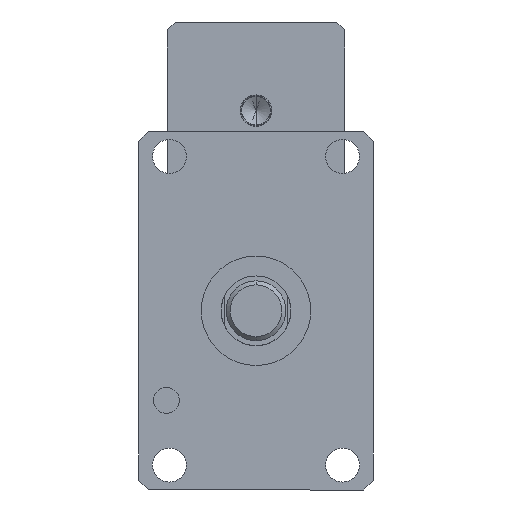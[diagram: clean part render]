
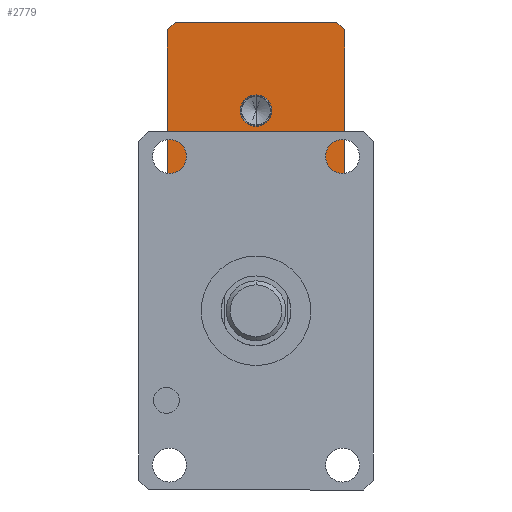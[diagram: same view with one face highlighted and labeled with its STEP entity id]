
A CAD part, front view. The second image highlights one B-rep face of the part: STEP entity #2779.
In plain terms, the highlighted planar face has unit normal (0, -1, 0).
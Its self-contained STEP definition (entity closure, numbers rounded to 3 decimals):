
#2 = EDGE_CURVE ( 'NONE', #11364, #4867, #7471, .T. ) ;
#91 = EDGE_CURVE ( 'NONE', #9857, #264, #6841, .T. ) ;
#190 = EDGE_CURVE ( 'NONE', #264, #6499, #11752, .T. ) ;
#264 = VERTEX_POINT ( 'NONE', #6735 ) ;
#344 = EDGE_CURVE ( 'NONE', #6499, #7628, #9290, .T. ) ;
#390 = ORIENTED_EDGE ( 'NONE', *, *, #810, .F. ) ;
#405 = CARTESIAN_POINT ( 'NONE',  ( 44.5, 260., 145. ) ) ;
#474 = CARTESIAN_POINT ( 'NONE',  ( 44.5, 260., 145. ) ) ;
#579 = EDGE_CURVE ( 'NONE', #7226, #7628, #7458, .T. ) ;
#633 = CARTESIAN_POINT ( 'NONE',  ( 0., 260., 100.5 ) ) ;
#667 = EDGE_CURVE ( 'NONE', #7226, #4001, #6833, .T. ) ;
#676 = ORIENTED_EDGE ( 'NONE', *, *, #667, .T. ) ;
#810 = EDGE_CURVE ( 'NONE', #8572, #4001, #8492, .T. ) ;
#905 = EDGE_CURVE ( 'NONE', #8572, #2952, #2736, .T. ) ;
#1140 = ORIENTED_EDGE ( 'NONE', *, *, #2, .F. ) ;
#1212 = ORIENTED_EDGE ( 'NONE', *, *, #579, .F. ) ;
#1451 = DIRECTION ( 'NONE',  ( 1., 0., 0. ) ) ;
#1620 = DIRECTION ( 'NONE',  ( 0., 0., -1. ) ) ;
#1722 = VECTOR ( 'NONE', #11508, 1000. ) ;
#1839 = LINE ( 'NONE', #10844, #10931 ) ;
#1841 = DIRECTION ( 'NONE',  ( 0., -1., 0. ) ) ;
#2141 = VECTOR ( 'NONE', #5257, 1000. ) ;
#2326 = DIRECTION ( 'NONE',  ( 0., 0., -1. ) ) ;
#2331 = VECTOR ( 'NONE', #2326, 1000. ) ;
#2716 = DIRECTION ( 'NONE',  ( 0., 0., 1. ) ) ;
#2736 = LINE ( 'NONE', #12070, #2141 ) ;
#2779 = ADVANCED_FACE ( 'NONE', ( #12140, #6610 ), #7543, .F. ) ;
#2900 = CARTESIAN_POINT ( 'NONE',  ( -44.5, 260., 141. ) ) ;
#2952 = VERTEX_POINT ( 'NONE', #2900 ) ;
#3231 = CARTESIAN_POINT ( 'NONE',  ( 40.5, 260., 56. ) ) ;
#3691 = ORIENTED_EDGE ( 'NONE', *, *, #6955, .F. ) ;
#4001 = VERTEX_POINT ( 'NONE', #7830 ) ;
#4114 = CARTESIAN_POINT ( 'NONE',  ( 44.5, 260., 60. ) ) ;
#4272 = VECTOR ( 'NONE', #6290, 1000. ) ;
#4815 = CARTESIAN_POINT ( 'NONE',  ( -44.5, 260., 60. ) ) ;
#4867 = VERTEX_POINT ( 'NONE', #11756 ) ;
#5218 = AXIS2_PLACEMENT_3D ( 'NONE', #12408, #8508, #2716 ) ;
#5257 = DIRECTION ( 'NONE',  ( -0.707, 0., -0.707 ) ) ;
#5283 = AXIS2_PLACEMENT_3D ( 'NONE', #7627, #1841, #8594 ) ;
#5754 = ORIENTED_EDGE ( 'NONE', *, *, #344, .T. ) ;
#5899 = CIRCLE ( 'NONE', #12182, 7.903 ) ;
#5903 = CARTESIAN_POINT ( 'NONE',  ( 44.5, 260., 141. ) ) ;
#6290 = DIRECTION ( 'NONE',  ( -0.707, 0., 0.707 ) ) ;
#6499 = VERTEX_POINT ( 'NONE', #3231 ) ;
#6610 = FACE_OUTER_BOUND ( 'NONE', #10599, .T. ) ;
#6614 = CARTESIAN_POINT ( 'NONE',  ( 0., 260., 92.597 ) ) ;
#6676 = VECTOR ( 'NONE', #6990, 1000. ) ;
#6735 = CARTESIAN_POINT ( 'NONE',  ( -40.5, 260., 56. ) ) ;
#6833 = LINE ( 'NONE', #9253, #4272 ) ;
#6841 = LINE ( 'NONE', #4815, #1722 ) ;
#6955 = EDGE_CURVE ( 'NONE', #4867, #11364, #5899, .T. ) ;
#6990 = DIRECTION ( 'NONE',  ( 0.707, 0., 0.707 ) ) ;
#7226 = VERTEX_POINT ( 'NONE', #5903 ) ;
#7283 = EDGE_CURVE ( 'NONE', #2952, #9857, #1839, .T. ) ;
#7409 = DIRECTION ( 'NONE',  ( 0., -1., 0. ) ) ;
#7458 = LINE ( 'NONE', #405, #2331 ) ;
#7471 = CIRCLE ( 'NONE', #5283, 7.903 ) ;
#7543 = PLANE ( 'NONE',  #5218 ) ;
#7627 = CARTESIAN_POINT ( 'NONE',  ( 0., 260., 100.5 ) ) ;
#7628 = VERTEX_POINT ( 'NONE', #10354 ) ;
#7674 = DIRECTION ( 'NONE',  ( 1., 0., 0. ) ) ;
#7710 = EDGE_LOOP ( 'NONE', ( #1140, #3691 ) ) ;
#7830 = CARTESIAN_POINT ( 'NONE',  ( 40.5, 260., 145. ) ) ;
#8363 = DIRECTION ( 'NONE',  ( 0., 0., -1. ) ) ;
#8492 = LINE ( 'NONE', #474, #10782 ) ;
#8508 = DIRECTION ( 'NONE',  ( 0., 1., 0. ) ) ;
#8572 = VERTEX_POINT ( 'NONE', #8829 ) ;
#8594 = DIRECTION ( 'NONE',  ( 0., 0., -1. ) ) ;
#8642 = ORIENTED_EDGE ( 'NONE', *, *, #905, .T. ) ;
#8755 = CARTESIAN_POINT ( 'NONE',  ( 44.5, 260., 56. ) ) ;
#8829 = CARTESIAN_POINT ( 'NONE',  ( -40.5, 260., 145. ) ) ;
#9253 = CARTESIAN_POINT ( 'NONE',  ( 40.5, 260., 145. ) ) ;
#9290 = LINE ( 'NONE', #4114, #6676 ) ;
#9370 = ORIENTED_EDGE ( 'NONE', *, *, #91, .T. ) ;
#9540 = CARTESIAN_POINT ( 'NONE',  ( -44.5, 260., 60. ) ) ;
#9857 = VERTEX_POINT ( 'NONE', #9540 ) ;
#10208 = VECTOR ( 'NONE', #7674, 1000. ) ;
#10354 = CARTESIAN_POINT ( 'NONE',  ( 44.5, 260., 60. ) ) ;
#10599 = EDGE_LOOP ( 'NONE', ( #11802, #9370, #11991, #5754, #1212, #676, #390, #8642 ) ) ;
#10782 = VECTOR ( 'NONE', #1451, 1000. ) ;
#10844 = CARTESIAN_POINT ( 'NONE',  ( -44.5, 260., 145. ) ) ;
#10931 = VECTOR ( 'NONE', #8363, 1000. ) ;
#11364 = VERTEX_POINT ( 'NONE', #6614 ) ;
#11508 = DIRECTION ( 'NONE',  ( 0.707, 0., -0.707 ) ) ;
#11752 = LINE ( 'NONE', #8755, #10208 ) ;
#11756 = CARTESIAN_POINT ( 'NONE',  ( 0., 260., 108.403 ) ) ;
#11802 = ORIENTED_EDGE ( 'NONE', *, *, #7283, .T. ) ;
#11991 = ORIENTED_EDGE ( 'NONE', *, *, #190, .T. ) ;
#12070 = CARTESIAN_POINT ( 'NONE',  ( -40.5, 260., 145. ) ) ;
#12140 = FACE_BOUND ( 'NONE', #7710, .T. ) ;
#12182 = AXIS2_PLACEMENT_3D ( 'NONE', #633, #7409, #1620 ) ;
#12408 = CARTESIAN_POINT ( 'NONE',  ( 44.5, 260., 145. ) ) ;
